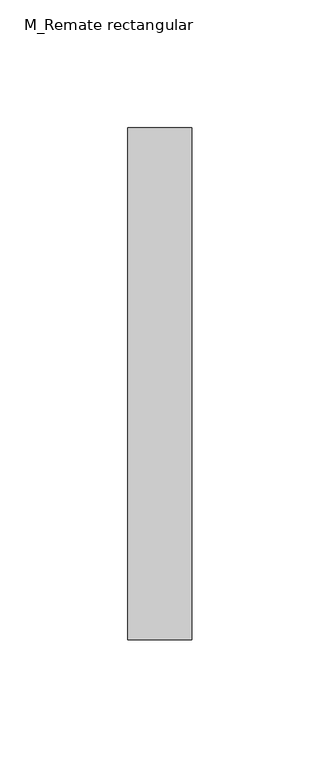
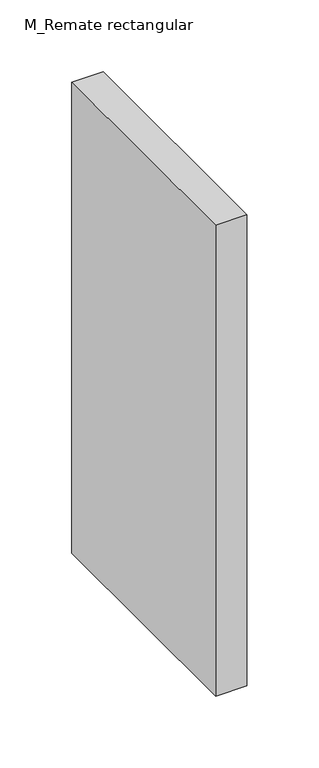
"""IFC4 building model written with IfcOpenShell, lengths in millimetres: duct fitting geometry, M_Remate rectangular : Estándar."""

from ifc_helpers import new_model, si_unit, frame, origin, place, context, project, spatial, polyline, outline, extrude, source, transform, mapped, element, save


def m_remate_rectangular_1dc2f826(model_context):
    return source(origin(), model_context, "Body", "SweptSolid", [
        extrude(outline(polyline([(0.0, -100.0), (0.0, 100.0), (25.0, 100.0), (25.0, -100.0), (0.0, -100.0)])), frame((0.0, 0.0, -200.0), z_axis=(0.0, 0.0, 1.0), x_axis=(1.0, 0.0, 0.0)), (0.0, 0.0, 1.0), 400.0),
    ])


if __name__ == "__main__":
    model = new_model("IFC4")
    model_context = context("Model", 3, world=origin())
    ifc_project = project(units=[si_unit("LENGTHUNIT", "METRE", prefix="MILLI")], contexts=[model_context])
    site = spatial("IfcSite", under=ifc_project)
    building = spatial("IfcBuilding", under=site)
    placement = place(None, origin())
    m_remate_rectangular_shape = m_remate_rectangular_1dc2f826(model_context)
    element("IfcDuctFitting", 1, ObjectType="M_Remate rectangular : Estándar", at=placement, inside=building, context=model_context, shape_type="MappedRepresentation", body=[
        mapped(m_remate_rectangular_shape, transform((0.0, 0.0, 0.0), x_axis=(1.0, 0.0, 0.0), y_axis=(0.0, 1.0, 0.0), z_axis=(0.0, 0.0, 1.0))),
    ])
    save(model, "model.ifc")
